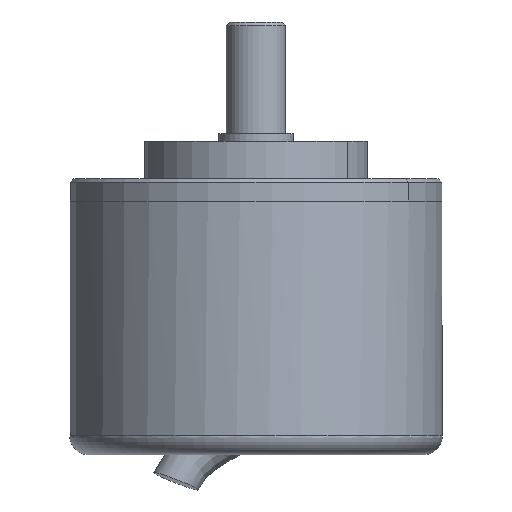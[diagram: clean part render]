
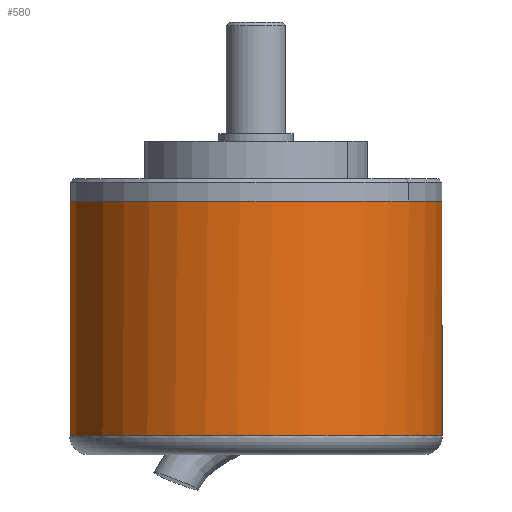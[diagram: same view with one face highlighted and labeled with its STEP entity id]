
A CAD part, left-side view. The second image highlights one B-rep face of the part: STEP entity #580.
In plain terms, the highlighted cylindrical face has radius 25 mm (diameter 50 mm), a full revolution.
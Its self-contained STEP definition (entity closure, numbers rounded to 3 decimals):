
#437=FACE_BOUND('',#985,.T.);
#438=FACE_BOUND('',#986,.T.);
#580=ADVANCED_FACE('',(#437,#438),#765,.T.);
#765=CYLINDRICAL_SURFACE('',#3368,25.);
#985=EDGE_LOOP('',(#1501));
#986=EDGE_LOOP('',(#1502,#1503,#1504,#1505));
#1353=LINE('',#4732,#1419);
#1354=LINE('',#4736,#1420);
#1419=VECTOR('',#3788,1.);
#1420=VECTOR('',#3791,1.);
#1501=ORIENTED_EDGE('',*,*,#2694,.T.);
#1502=ORIENTED_EDGE('',*,*,#2695,.T.);
#1503=ORIENTED_EDGE('',*,*,#2696,.T.);
#1504=ORIENTED_EDGE('',*,*,#2697,.T.);
#1505=ORIENTED_EDGE('',*,*,#2698,.T.);
#2395=VERTEX_POINT('',#4728);
#2396=VERTEX_POINT('',#4730);
#2397=VERTEX_POINT('',#4731);
#2398=VERTEX_POINT('',#4733);
#2399=VERTEX_POINT('',#4735);
#2694=EDGE_CURVE('',#2395,#2395,#3132,.T.);
#2695=EDGE_CURVE('',#2396,#2397,#3133,.T.);
#2696=EDGE_CURVE('',#2397,#2398,#1353,.T.);
#2697=EDGE_CURVE('',#2398,#2399,#3134,.T.);
#2698=EDGE_CURVE('',#2399,#2396,#1354,.T.);
#3132=CIRCLE('',#3365,25.);
#3133=CIRCLE('',#3366,25.);
#3134=CIRCLE('',#3367,25.);
#3365=AXIS2_PLACEMENT_3D('',#4727,#3784,#3785);
#3366=AXIS2_PLACEMENT_3D('',#4729,#3786,#3787);
#3367=AXIS2_PLACEMENT_3D('',#4734,#3789,#3790);
#3368=AXIS2_PLACEMENT_3D('',#4737,#3792,#3793);
#3784=DIRECTION('',(0.,0.,-1.));
#3785=DIRECTION('',(-0.766,-0.643,0.));
#3786=DIRECTION('',(0.,0.,1.));
#3787=DIRECTION('',(-0.087,-0.996,0.));
#3788=DIRECTION('',(0.,0.,-1.));
#3789=DIRECTION('',(0.,0.,1.));
#3790=DIRECTION('',(-0.087,-0.996,0.));
#3791=DIRECTION('',(0.,0.,1.));
#3792=DIRECTION('',(0.,0.,-1.));
#3793=DIRECTION('',(0.087,0.996,0.));
#4727=CARTESIAN_POINT('',(20.,20.,-11.706));
#4728=CARTESIAN_POINT('',(22.179,44.905,-11.706));
#4729=CARTESIAN_POINT('',(20.,20.,-28.217));
#4730=CARTESIAN_POINT('',(42.147,8.401,-28.217));
#4731=CARTESIAN_POINT('',(43.824,27.577,-28.217));
#4732=CARTESIAN_POINT('',(43.824,27.577,-4.706));
#4733=CARTESIAN_POINT('',(43.824,27.577,-43.168));
#4734=CARTESIAN_POINT('',(20.,20.,-43.168));
#4735=CARTESIAN_POINT('',(42.147,8.401,-43.168));
#4736=CARTESIAN_POINT('',(42.147,8.401,-4.706));
#4737=CARTESIAN_POINT('',(20.,20.,-4.706));
